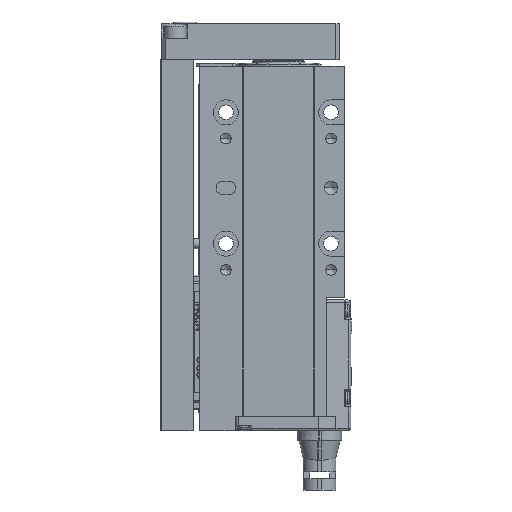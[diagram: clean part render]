
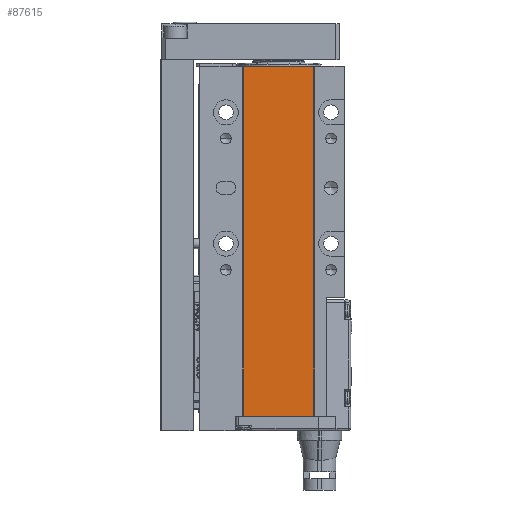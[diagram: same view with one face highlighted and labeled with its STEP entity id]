
A CAD part, left-side view. The second image highlights one B-rep face of the part: STEP entity #87615.
In plain terms, the highlighted planar face has unit normal (-1, 0, 0).
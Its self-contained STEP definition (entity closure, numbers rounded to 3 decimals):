
#816 = DIRECTION ( 'NONE',  ( 0., 1., 0. ) ) ;
#2609 = CARTESIAN_POINT ( 'NONE',  ( -13.7, 30.2, -106.5 ) ) ;
#5670 = VERTEX_POINT ( 'NONE', #85373 ) ;
#6908 = ORIENTED_EDGE ( 'NONE', *, *, #47604, .T. ) ;
#6922 = DIRECTION ( 'NONE',  ( 0., -1., 0. ) ) ;
#9307 = CARTESIAN_POINT ( 'NONE',  ( -13.7, 30.2, 0. ) ) ;
#12979 = VECTOR ( 'NONE', #21824, 1000. ) ;
#21824 = DIRECTION ( 'NONE',  ( 0., 0., 1. ) ) ;
#26912 = EDGE_CURVE ( 'NONE', #86235, #45828, #62320, .T. ) ;
#28824 = CARTESIAN_POINT ( 'NONE',  ( -13.7, 8.8, 0. ) ) ;
#32577 = ORIENTED_EDGE ( 'NONE', *, *, #26912, .T. ) ;
#41320 = LINE ( 'NONE', #73860, #65453 ) ;
#41833 = DIRECTION ( 'NONE',  ( 0., 0., -1. ) ) ;
#43093 = VERTEX_POINT ( 'NONE', #2609 ) ;
#43186 = VECTOR ( 'NONE', #6922, 1000. ) ;
#43508 = VECTOR ( 'NONE', #41833, 1000. ) ;
#45828 = VERTEX_POINT ( 'NONE', #92064 ) ;
#47437 = LINE ( 'NONE', #79991, #43186 ) ;
#47604 = EDGE_CURVE ( 'NONE', #5670, #43093, #82356, .T. ) ;
#56336 = EDGE_CURVE ( 'NONE', #45828, #5670, #41320, .T. ) ;
#61347 = DIRECTION ( 'NONE',  ( -1., 0., 0. ) ) ;
#62320 = LINE ( 'NONE', #94870, #12979 ) ;
#62322 = ORIENTED_EDGE ( 'NONE', *, *, #89714, .T. ) ;
#65453 = VECTOR ( 'NONE', #816, 1000. ) ;
#66257 = CARTESIAN_POINT ( 'NONE',  ( -13.7, 8.8, -106.5 ) ) ;
#69366 = FACE_OUTER_BOUND ( 'NONE', #81390, .T. ) ;
#70240 = AXIS2_PLACEMENT_3D ( 'NONE', #28824, #61347, #93890 ) ;
#73860 = CARTESIAN_POINT ( 'NONE',  ( -13.7, 8.8, 0. ) ) ;
#79991 = CARTESIAN_POINT ( 'NONE',  ( -13.7, 8.8, -106.5 ) ) ;
#81390 = EDGE_LOOP ( 'NONE', ( #90581, #6908, #62322, #32577 ) ) ;
#82356 = LINE ( 'NONE', #9307, #43508 ) ;
#85373 = CARTESIAN_POINT ( 'NONE',  ( -13.7, 30.2, 0. ) ) ;
#86235 = VERTEX_POINT ( 'NONE', #66257 ) ;
#87615 = ADVANCED_FACE ( 'NONE', ( #69366 ), #101893, .T. ) ;
#89714 = EDGE_CURVE ( 'NONE', #43093, #86235, #47437, .T. ) ;
#90581 = ORIENTED_EDGE ( 'NONE', *, *, #56336, .T. ) ;
#92064 = CARTESIAN_POINT ( 'NONE',  ( -13.7, 8.8, 0. ) ) ;
#93890 = DIRECTION ( 'NONE',  ( 0., -1., 0. ) ) ;
#94870 = CARTESIAN_POINT ( 'NONE',  ( -13.7, 8.8, 0. ) ) ;
#101893 = PLANE ( 'NONE',  #70240 ) ;
